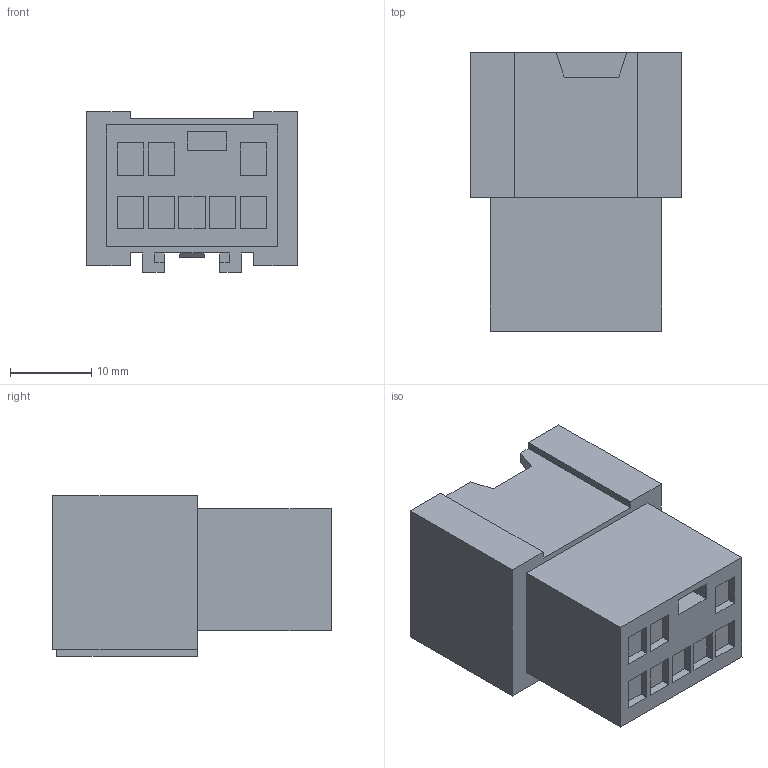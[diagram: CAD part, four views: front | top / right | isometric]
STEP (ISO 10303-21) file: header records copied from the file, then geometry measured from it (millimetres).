
FILE_DESCRIPTION(('CATIA V5 STEP','CAx-IF Rec.Pracs.--- Model Styling and Organization---1.4--- 2014-01-23'),'2;1');
FILE_NAME('\\fss02.ad.sws.co.jp\fs100016\第3設計部\共有\コネクタ第1Gr\【91】一時保管\★カタログ用参考資料\簡易３D\stp_送付用\6098-6976.stp','2024-10-07T01:33:47+00:00',('none'),('none'),'CATIA Version 5-6 Release 2018 SP4 HF21','CATIA V5 STEP AP214','none');
FILE_SCHEMA(('AUTOMOTIVE_DESIGN { 1 0 10303 214 1 1 1 1 }'));
Length unit declared in the file: millimetre
Products named in the file (1): 6098-6976
Bounding box: 25.9 x 34.25 x 19.8 mm (x, y, z)
Volume: 8367.6 mm3; surface area: 6060 mm2
Topology: 1 solids, 1 shells, 159 faces, 418 edges, 278 vertices
Faces by surface type: plane 159
Entity records: 4451 total; most frequent: ORIENTED_EDGE 836, CARTESIAN_POINT 782, DIRECTION 588, VECTOR 418, EDGE_CURVE 418, LINE 418, VERTEX_POINT 278, EDGE_LOOP 178
